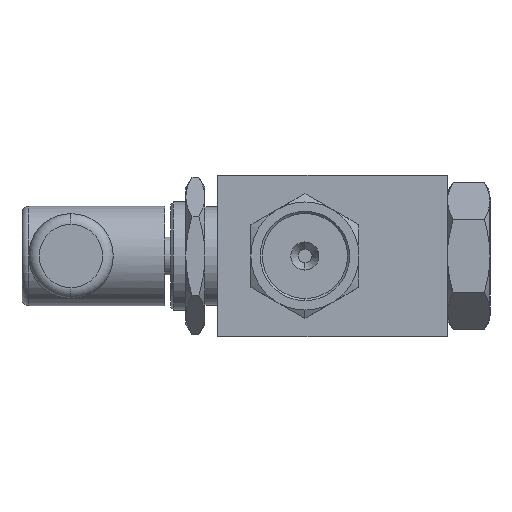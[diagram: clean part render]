
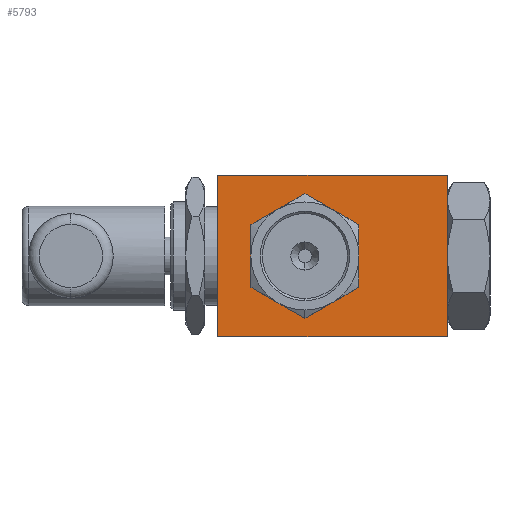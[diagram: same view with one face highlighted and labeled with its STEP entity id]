
A CAD part, left-side view. The second image highlights one B-rep face of the part: STEP entity #5793.
In plain terms, the highlighted planar face has unit normal (-1, 0, 0).
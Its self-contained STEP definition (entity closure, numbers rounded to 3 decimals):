
#10 = VECTOR ( 'NONE', #3960, 1000. ) ;
#58 = CIRCLE ( 'NONE', #2248, 11. ) ;
#61 = EDGE_LOOP ( 'NONE', ( #5851, #1267, #845, #2858, #5682, #3683, #5915 ) ) ;
#154 = VERTEX_POINT ( 'NONE', #1193 ) ;
#202 = DIRECTION ( 'NONE',  ( 0., 0., -1. ) ) ;
#285 = CARTESIAN_POINT ( 'NONE',  ( -33.25, 6.5, 11. ) ) ;
#299 = VERTEX_POINT ( 'NONE', #776 ) ;
#384 = FACE_BOUND ( 'NONE', #61, .T. ) ;
#460 = EDGE_LOOP ( 'NONE', ( #4170, #5950, #3827, #4132 ) ) ;
#500 = DIRECTION ( 'NONE',  ( 1., 0., 0. ) ) ;
#534 = CARTESIAN_POINT ( 'NONE',  ( -33.25, -27., 19. ) ) ;
#554 = VERTEX_POINT ( 'NONE', #2157 ) ;
#598 = DIRECTION ( 'NONE',  ( 0., 0., -1. ) ) ;
#629 = CARTESIAN_POINT ( 'NONE',  ( -33.25, 6.5, 0. ) ) ;
#776 = CARTESIAN_POINT ( 'NONE',  ( -33.25, 12., -9.526 ) ) ;
#781 = AXIS2_PLACEMENT_3D ( 'NONE', #6194, #1737, #202 ) ;
#826 = DIRECTION ( 'NONE',  ( 1., 0., 0. ) ) ;
#845 = ORIENTED_EDGE ( 'NONE', *, *, #6015, .T. ) ;
#929 = VERTEX_POINT ( 'NONE', #1411 ) ;
#1040 = CARTESIAN_POINT ( 'NONE',  ( -33.25, -27., 19. ) ) ;
#1136 = DIRECTION ( 'NONE',  ( 1., 0., 0. ) ) ;
#1193 = CARTESIAN_POINT ( 'NONE',  ( -33.25, 27., -19. ) ) ;
#1267 = ORIENTED_EDGE ( 'NONE', *, *, #3650, .T. ) ;
#1411 = CARTESIAN_POINT ( 'NONE',  ( -33.25, -27., 19. ) ) ;
#1492 = CARTESIAN_POINT ( 'NONE',  ( -33.25, 1., -9.526 ) ) ;
#1592 = LINE ( 'NONE', #3493, #1714 ) ;
#1714 = VECTOR ( 'NONE', #5487, 1000. ) ;
#1737 = DIRECTION ( 'NONE',  ( 1., 0., 0. ) ) ;
#1841 = CARTESIAN_POINT ( 'NONE',  ( -33.25, 12., 9.526 ) ) ;
#1844 = EDGE_CURVE ( 'NONE', #1857, #554, #4689, .T. ) ;
#1857 = VERTEX_POINT ( 'NONE', #285 ) ;
#1902 = FACE_OUTER_BOUND ( 'NONE', #460, .T. ) ;
#1923 = CIRCLE ( 'NONE', #781, 11. ) ;
#1937 = VECTOR ( 'NONE', #2578, 1000. ) ;
#2020 = EDGE_CURVE ( 'NONE', #929, #3775, #4918, .T. ) ;
#2123 = AXIS2_PLACEMENT_3D ( 'NONE', #5281, #826, #2813 ) ;
#2157 = CARTESIAN_POINT ( 'NONE',  ( -33.25, 1., 9.526 ) ) ;
#2226 = VERTEX_POINT ( 'NONE', #5217 ) ;
#2231 = CARTESIAN_POINT ( 'NONE',  ( -33.25, 27., 19. ) ) ;
#2248 = AXIS2_PLACEMENT_3D ( 'NONE', #629, #5959, #598 ) ;
#2331 = DIRECTION ( 'NONE',  ( 1., 0., 0. ) ) ;
#2337 = CIRCLE ( 'NONE', #2123, 11. ) ;
#2385 = CARTESIAN_POINT ( 'NONE',  ( -33.25, -27., -19. ) ) ;
#2423 = VECTOR ( 'NONE', #6170, 1000. ) ;
#2468 = VERTEX_POINT ( 'NONE', #4584 ) ;
#2512 = LINE ( 'NONE', #1040, #1937 ) ;
#2578 = DIRECTION ( 'NONE',  ( 0., -1., 0. ) ) ;
#2598 = CIRCLE ( 'NONE', #6245, 11. ) ;
#2813 = DIRECTION ( 'NONE',  ( 0., 0., -1. ) ) ;
#2858 = ORIENTED_EDGE ( 'NONE', *, *, #3410, .T. ) ;
#2872 = EDGE_CURVE ( 'NONE', #2468, #154, #5641, .T. ) ;
#2969 = DIRECTION ( 'NONE',  ( 1., 0., 0. ) ) ;
#3046 = DIRECTION ( 'NONE',  ( 0., 0., -1. ) ) ;
#3174 = DIRECTION ( 'NONE',  ( 0., 0., -1. ) ) ;
#3309 = AXIS2_PLACEMENT_3D ( 'NONE', #3377, #500, #6391 ) ;
#3361 = VERTEX_POINT ( 'NONE', #1841 ) ;
#3377 = CARTESIAN_POINT ( 'NONE',  ( -33.25, -27., 19. ) ) ;
#3410 = EDGE_CURVE ( 'NONE', #3361, #1857, #2337, .T. ) ;
#3461 = CARTESIAN_POINT ( 'NONE',  ( -33.25, 6.5, 0. ) ) ;
#3464 = AXIS2_PLACEMENT_3D ( 'NONE', #3918, #1136, #3174 ) ;
#3493 = CARTESIAN_POINT ( 'NONE',  ( -33.25, -27., -19. ) ) ;
#3569 = CIRCLE ( 'NONE', #3464, 11. ) ;
#3650 = EDGE_CURVE ( 'NONE', #299, #2226, #1923, .T. ) ;
#3683 = ORIENTED_EDGE ( 'NONE', *, *, #3903, .T. ) ;
#3775 = VERTEX_POINT ( 'NONE', #2385 ) ;
#3827 = ORIENTED_EDGE ( 'NONE', *, *, #4925, .F. ) ;
#3870 = EDGE_CURVE ( 'NONE', #154, #3775, #1592, .T. ) ;
#3903 = EDGE_CURVE ( 'NONE', #554, #5339, #3569, .T. ) ;
#3918 = CARTESIAN_POINT ( 'NONE',  ( -33.25, 6.5, 0. ) ) ;
#3960 = DIRECTION ( 'NONE',  ( 0., 0., -1. ) ) ;
#3969 = DIRECTION ( 'NONE',  ( 0., 0., -1. ) ) ;
#4132 = ORIENTED_EDGE ( 'NONE', *, *, #2872, .T. ) ;
#4170 = ORIENTED_EDGE ( 'NONE', *, *, #3870, .T. ) ;
#4542 = EDGE_CURVE ( 'NONE', #5241, #299, #58, .T. ) ;
#4584 = CARTESIAN_POINT ( 'NONE',  ( -33.25, 27., 19. ) ) ;
#4673 = CIRCLE ( 'NONE', #6351, 11. ) ;
#4689 = CIRCLE ( 'NONE', #5096, 11. ) ;
#4916 = PLANE ( 'NONE',  #3309 ) ;
#4918 = LINE ( 'NONE', #534, #10 ) ;
#4925 = EDGE_CURVE ( 'NONE', #2468, #929, #2512, .T. ) ;
#4990 = CARTESIAN_POINT ( 'NONE',  ( -33.25, 6.5, 0. ) ) ;
#5096 = AXIS2_PLACEMENT_3D ( 'NONE', #5286, #2331, #6276 ) ;
#5106 = DIRECTION ( 'NONE',  ( 1., 0., 0. ) ) ;
#5194 = CARTESIAN_POINT ( 'NONE',  ( -33.25, -4.5, 0. ) ) ;
#5217 = CARTESIAN_POINT ( 'NONE',  ( -33.25, 17.5, 0. ) ) ;
#5241 = VERTEX_POINT ( 'NONE', #1492 ) ;
#5281 = CARTESIAN_POINT ( 'NONE',  ( -33.25, 6.5, 0. ) ) ;
#5286 = CARTESIAN_POINT ( 'NONE',  ( -33.25, 6.5, 0. ) ) ;
#5339 = VERTEX_POINT ( 'NONE', #5194 ) ;
#5487 = DIRECTION ( 'NONE',  ( 0., -1., 0. ) ) ;
#5554 = EDGE_CURVE ( 'NONE', #5339, #5241, #4673, .T. ) ;
#5641 = LINE ( 'NONE', #2231, #2423 ) ;
#5682 = ORIENTED_EDGE ( 'NONE', *, *, #1844, .T. ) ;
#5793 = ADVANCED_FACE ( 'NONE', ( #1902, #384 ), #4916, .F. ) ;
#5851 = ORIENTED_EDGE ( 'NONE', *, *, #4542, .T. ) ;
#5915 = ORIENTED_EDGE ( 'NONE', *, *, #5554, .T. ) ;
#5950 = ORIENTED_EDGE ( 'NONE', *, *, #2020, .F. ) ;
#5959 = DIRECTION ( 'NONE',  ( 1., 0., 0. ) ) ;
#6015 = EDGE_CURVE ( 'NONE', #2226, #3361, #2598, .T. ) ;
#6170 = DIRECTION ( 'NONE',  ( 0., 0., -1. ) ) ;
#6194 = CARTESIAN_POINT ( 'NONE',  ( -33.25, 6.5, 0. ) ) ;
#6245 = AXIS2_PLACEMENT_3D ( 'NONE', #3461, #5106, #3046 ) ;
#6276 = DIRECTION ( 'NONE',  ( 0., 0., -1. ) ) ;
#6351 = AXIS2_PLACEMENT_3D ( 'NONE', #4990, #2969, #3969 ) ;
#6391 = DIRECTION ( 'NONE',  ( 0., 0., -1. ) ) ;
